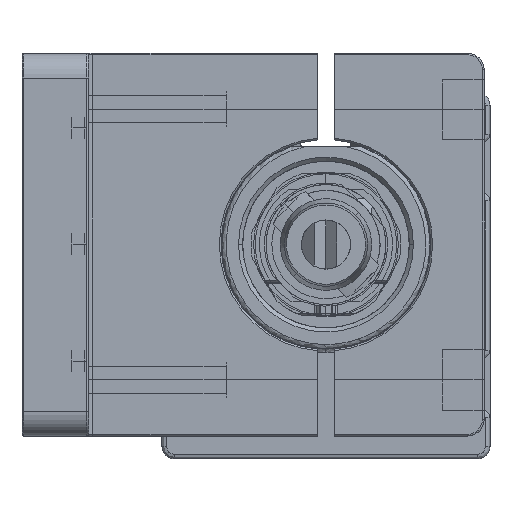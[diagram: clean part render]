
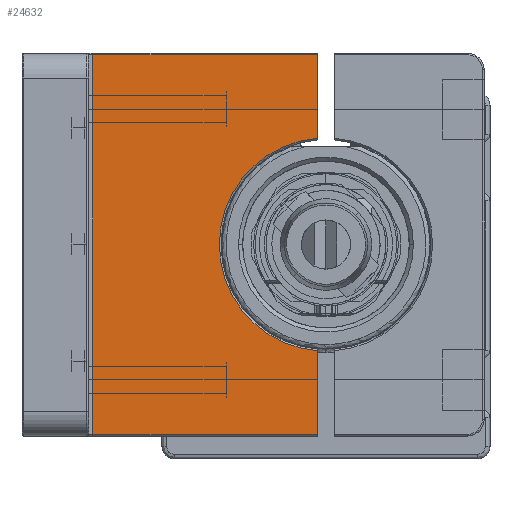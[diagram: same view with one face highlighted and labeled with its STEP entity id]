
A CAD part, front view. The second image highlights one B-rep face of the part: STEP entity #24632.
In plain terms, the highlighted planar face has unit normal (0, -1, 0) as drawn and (0, 0, 1) by its records, which use the part's own axes.
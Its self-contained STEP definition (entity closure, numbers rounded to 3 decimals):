
#157 = DIRECTION ( 'NONE',  ( 1., 0., 0. ) ) ;
#362 = AXIS2_PLACEMENT_3D ( 'NONE', #436, #25425, #157 ) ;
#436 = CARTESIAN_POINT ( 'NONE',  ( 23., 35., 8. ) ) ;
#824 = VERTEX_POINT ( 'NONE', #39204 ) ;
#4262 = VECTOR ( 'NONE', #9236, 1000. ) ;
#4754 = CARTESIAN_POINT ( 'NONE',  ( 45.8, 34., 8. ) ) ;
#6266 = CARTESIAN_POINT ( 'NONE',  ( 0., 7., 8. ) ) ;
#8657 = VECTOR ( 'NONE', #18979, 1000. ) ;
#9236 = DIRECTION ( 'NONE',  ( 1., 0., 0. ) ) ;
#9496 = CARTESIAN_POINT ( 'NONE',  ( 0.2, 7., 8. ) ) ;
#12003 = ORIENTED_EDGE ( 'NONE', *, *, #21376, .T. ) ;
#12545 = CARTESIAN_POINT ( 'NONE',  ( 0., 0., 8. ) ) ;
#12637 = CARTESIAN_POINT ( 'NONE',  ( 45.8, 34., 8. ) ) ;
#17181 = CIRCLE ( 'NONE', #362, 12.8 ) ;
#18428 = CARTESIAN_POINT ( 'NONE',  ( 0.2, 7., 8. ) ) ;
#18447 = LINE ( 'NONE', #6266, #8657 ) ;
#18979 = DIRECTION ( 'NONE',  ( 1., 0., 0. ) ) ;
#19916 = ORIENTED_EDGE ( 'NONE', *, *, #28838, .F. ) ;
#20566 = PLANE ( 'NONE',  #35939 ) ;
#21376 = EDGE_CURVE ( 'NONE', #40879, #26074, #34950, .T. ) ;
#21686 = DIRECTION ( 'NONE',  ( 1., 0., 0. ) ) ;
#22505 = ORIENTED_EDGE ( 'NONE', *, *, #30360, .F. ) ;
#23962 = VERTEX_POINT ( 'NONE', #50838 ) ;
#24632 = ADVANCED_FACE ( 'NONE', ( #42440 ), #20566, .T. ) ;
#24766 = DIRECTION ( 'NONE',  ( 1., 0., 0. ) ) ;
#25425 = DIRECTION ( 'NONE',  ( 0., 0., -1. ) ) ;
#26074 = VERTEX_POINT ( 'NONE', #42010 ) ;
#26149 = LINE ( 'NONE', #4754, #55034 ) ;
#26195 = EDGE_CURVE ( 'NONE', #52691, #824, #17181, .T. ) ;
#27681 = EDGE_CURVE ( 'NONE', #23962, #41714, #27904, .T. ) ;
#27904 = LINE ( 'NONE', #18428, #51269 ) ;
#28838 = EDGE_CURVE ( 'NONE', #23962, #824, #26149, .T. ) ;
#30360 = EDGE_CURVE ( 'NONE', #52691, #26074, #38634, .T. ) ;
#31470 = CARTESIAN_POINT ( 'NONE',  ( 45.8, 7., 8. ) ) ;
#33864 = CARTESIAN_POINT ( 'NONE',  ( 45.8, 34., 8. ) ) ;
#34950 = LINE ( 'NONE', #33864, #52448 ) ;
#35939 = AXIS2_PLACEMENT_3D ( 'NONE', #12545, #54778, #24766 ) ;
#38634 = LINE ( 'NONE', #12637, #4262 ) ;
#39204 = CARTESIAN_POINT ( 'NONE',  ( 10.239, 34., 8. ) ) ;
#40879 = VERTEX_POINT ( 'NONE', #31470 ) ;
#41238 = ORIENTED_EDGE ( 'NONE', *, *, #41524, .T. ) ;
#41524 = EDGE_CURVE ( 'NONE', #41714, #40879, #18447, .T. ) ;
#41714 = VERTEX_POINT ( 'NONE', #9496 ) ;
#42010 = CARTESIAN_POINT ( 'NONE',  ( 45.8, 34., 8. ) ) ;
#42440 = FACE_OUTER_BOUND ( 'NONE', #47677, .T. ) ;
#42878 = DIRECTION ( 'NONE',  ( 0., 1., 0. ) ) ;
#43460 = CARTESIAN_POINT ( 'NONE',  ( 35.761, 34., 8. ) ) ;
#47677 = EDGE_LOOP ( 'NONE', ( #19916, #54458, #41238, #12003, #22505, #47967 ) ) ;
#47967 = ORIENTED_EDGE ( 'NONE', *, *, #26195, .T. ) ;
#50838 = CARTESIAN_POINT ( 'NONE',  ( 0.2, 34., 8. ) ) ;
#51269 = VECTOR ( 'NONE', #52644, 1000. ) ;
#52448 = VECTOR ( 'NONE', #42878, 1000. ) ;
#52644 = DIRECTION ( 'NONE',  ( 0., -1., 0. ) ) ;
#52691 = VERTEX_POINT ( 'NONE', #43460 ) ;
#54458 = ORIENTED_EDGE ( 'NONE', *, *, #27681, .T. ) ;
#54778 = DIRECTION ( 'NONE',  ( 0., 0., 1. ) ) ;
#55034 = VECTOR ( 'NONE', #21686, 1000. ) ;
